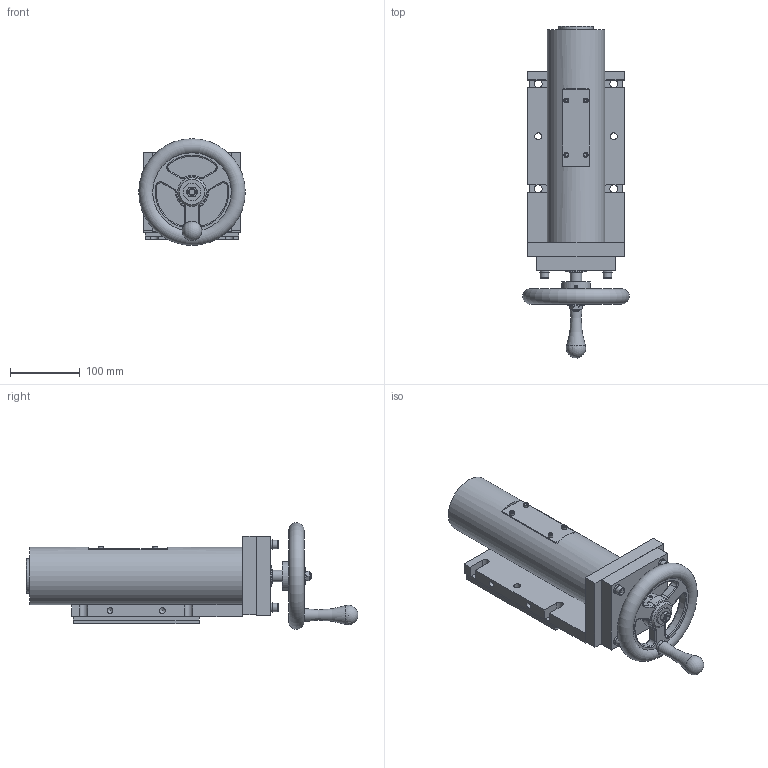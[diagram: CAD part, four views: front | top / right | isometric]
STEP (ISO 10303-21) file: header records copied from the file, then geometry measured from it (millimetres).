
FILE_DESCRIPTION(/* description */ (''),/* implementation_level */ '2;1');
FILE_NAME(/* name */ 'C:\Vault Workspace\CAD\Welker\Shot Pin\HP5\MANUAL\HP5-M00000000.stp',/* time_stamp */ '2020-10-22T11:04:51-04:00',/* author */ ('KPL'),/* organization */ (''),/* preprocessor_version */ 'ST-DEVELOPER v18.1',/* originating_system */ 'Autodesk Inventor 2020',/* authorisation */ '');
FILE_SCHEMA (('AUTOMOTIVE_DESIGN { 1 0 10303 214 3 1 1 }'));
Length unit declared in the file: millimetre
Products named in the file (1): HP5ML01_Shrinkwrap_1
Bounding box: 152.38 x 474.77 x 152.38 mm (x, y, z)
Volume: 2890884.2 mm3; surface area: 524611.4 mm2
Topology: 29 solids, 29 shells, 500 faces, 1216 edges, 811 vertices
Faces by surface type: plane 238, cylinder 160, cone 62, torus 39, sphere 1
Full cylindrical faces by diameter (mm): 1.7 x2, 3.242 x4, 4 x5, 4.134 x8, 4.5 x4, 4.917 x4, 6.35 x2, 6.647 x2, 6.782 x4, 7 x4, 7.938 x4, 8.376 x5, 8.5 x4, 8.7 x4, 9.525 x1, 9.58 x1, 10 x2, 10.319 x1, 11 x6, 11.887 x4, 12.7 x1, 13.5 x4, 15.2 x1, 15.875 x1, 16 x4, 18 x1, 25.4 x2, 28.575 x1, 30 x1, 31.75 x1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
Entity records: 15846 total; most frequent: CARTESIAN_POINT 2943, DIRECTION 2681, ORIENTED_EDGE 2380, EDGE_CURVE 1190, AXIS2_PLACEMENT_3D 1037, VERTEX_POINT 811, EDGE_LOOP 647, LINE 607
